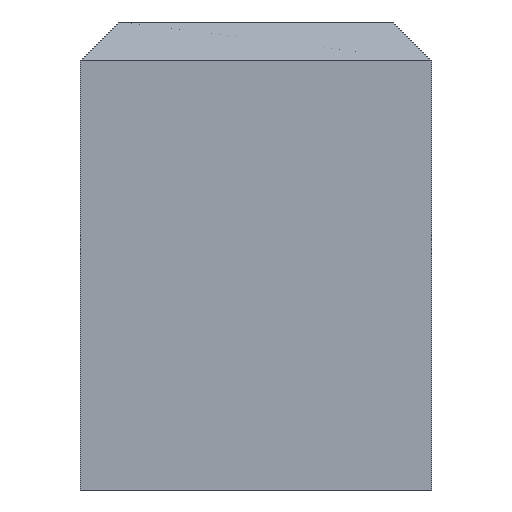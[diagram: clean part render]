
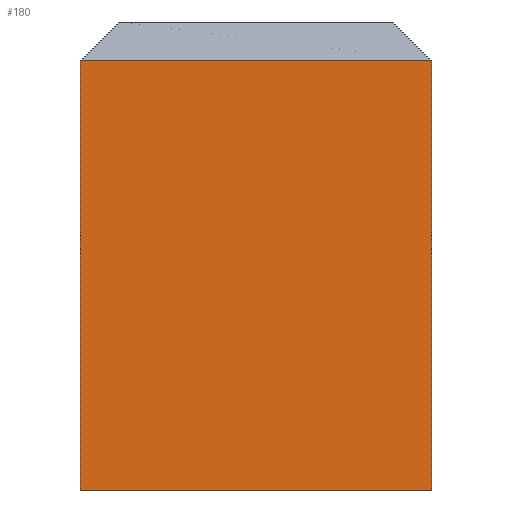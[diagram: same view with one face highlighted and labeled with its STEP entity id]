
A CAD part, left-side view. The second image highlights one B-rep face of the part: STEP entity #180.
In plain terms, the highlighted planar face has unit normal (-1, 0, 0).
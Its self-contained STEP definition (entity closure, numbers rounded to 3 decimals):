
#25=FACE_OUTER_BOUND('',#36,.T.);
#36=EDGE_LOOP('',(#138,#139,#140,#141));
#56=LINE('',#273,#76);
#58=LINE('',#277,#78);
#59=LINE('',#279,#79);
#60=LINE('',#280,#80);
#76=VECTOR('',#222,10.);
#78=VECTOR('',#226,10.);
#79=VECTOR('',#227,10.);
#80=VECTOR('',#228,10.);
#89=VERTEX_POINT('',#257);
#93=VERTEX_POINT('',#269);
#94=VERTEX_POINT('',#276);
#95=VERTEX_POINT('',#278);
#110=EDGE_CURVE('',#89,#93,#56,.T.);
#112=EDGE_CURVE('',#94,#89,#58,.T.);
#113=EDGE_CURVE('',#95,#94,#59,.T.);
#114=EDGE_CURVE('',#95,#93,#60,.T.);
#138=ORIENTED_EDGE('',*,*,#110,.F.);
#139=ORIENTED_EDGE('',*,*,#112,.F.);
#140=ORIENTED_EDGE('',*,*,#113,.F.);
#141=ORIENTED_EDGE('',*,*,#114,.T.);
#170=PLANE('',#193);
#180=ADVANCED_FACE('',(#25),#170,.T.);
#193=AXIS2_PLACEMENT_3D('',#275,#224,#225);
#222=DIRECTION('',(0.,-1.,0.));
#224=DIRECTION('center_axis',(-1.,0.,0.));
#225=DIRECTION('ref_axis',(0.,-1.,0.));
#226=DIRECTION('',(0.,0.,1.));
#227=DIRECTION('',(0.,1.,0.));
#228=DIRECTION('',(0.,0.,1.));
#257=CARTESIAN_POINT('',(-14.,4.5,5.5));
#269=CARTESIAN_POINT('',(-14.,0.,5.5));
#273=CARTESIAN_POINT('',(-14.,3.375,5.5));
#275=CARTESIAN_POINT('Origin',(-14.,4.5,0.));
#276=CARTESIAN_POINT('',(-14.,4.5,0.));
#277=CARTESIAN_POINT('',(-14.,4.5,0.));
#278=CARTESIAN_POINT('',(-14.,0.,0.));
#279=CARTESIAN_POINT('',(-14.,0.,0.));
#280=CARTESIAN_POINT('',(-14.,0.,0.));
